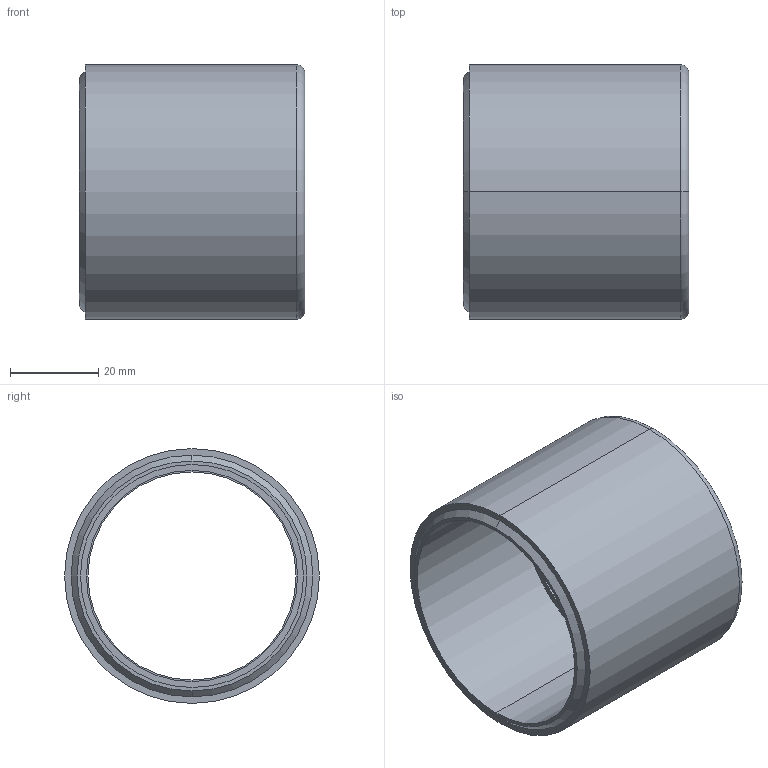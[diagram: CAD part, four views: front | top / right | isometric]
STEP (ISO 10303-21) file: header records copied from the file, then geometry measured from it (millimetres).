
FILE_DESCRIPTION (( 'STEP AP214' ), '1' );
FILE_NAME ('CR-INFV-12-13.STEP', '2020-12-10T17:00:00', ( '' ), ( '' ), 'SwSTEP 2.0', 'SolidWorks 2019', '' );
FILE_SCHEMA (( 'AUTOMOTIVE_DESIGN' ));
Length unit declared in the file: inch
Products named in the file (1): CR-INFV-12-13
Bounding box: 51.16 x 57.78 x 57.78 mm (x, y, z)
Volume: 34916.4 mm3; surface area: 18693.1 mm2
Topology: 1 solids, 1 shells, 20 faces, 40 edges, 26 vertices
Faces by surface type: cylinder 10, plane 6, cone 2, torus 2
Entity records: 840 total; most frequent: DIRECTION 110, CARTESIAN_POINT 87, ORIENTED_EDGE 80, AXIS2_PLACEMENT_3D 49, EDGE_CURVE 40, CIRCLE 28, VERTEX_POINT 26, EDGE_LOOP 26
